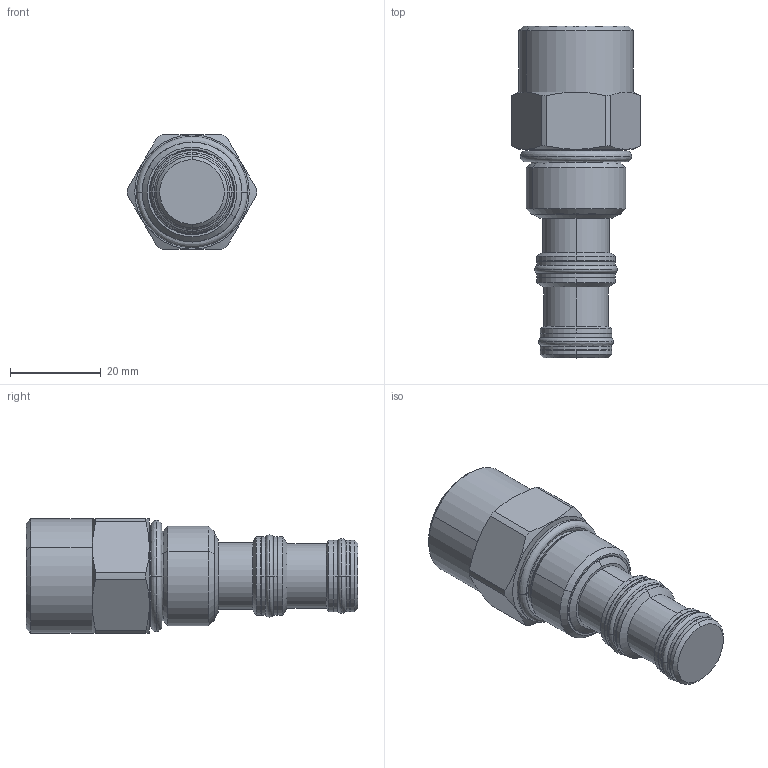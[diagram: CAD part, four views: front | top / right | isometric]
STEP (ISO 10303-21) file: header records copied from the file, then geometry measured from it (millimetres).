
FILE_DESCRIPTION((''),'2;1');
FILE_NAME('5418500_SW0001','2009-01-29T',('JCS'),(''),'PRO/ENGINEER BY PARAMETRIC TECHNOLOGY CORPORATION, 2008010','PRO/ENGINEER BY PARAMETRIC TECHNOLOGY CORPORATION, 2008010','');
FILE_SCHEMA(('CONFIG_CONTROL_DESIGN'));
Length unit declared in the file: inch
Products named in the file (1): 5418500_SW0001
Bounding box: 28.57 x 73.32 x 25.4 mm (x, y, z)
Volume: 25722 mm3; surface area: 7826.8 mm2
Topology: 4 solids, 4 shells, 137 faces, 290 edges, 166 vertices
Faces by surface type: cylinder 40, cone 28, torus 26, revolution 24, plane 19
Entity records: 4206 total; most frequent: CARTESIAN_POINT 1169, DIRECTION 676, ORIENTED_EDGE 580, EDGE_CURVE 290, AXIS2_PLACEMENT_3D 289, CIRCLE 176, VERTEX_POINT 166, EDGE_LOOP 148
